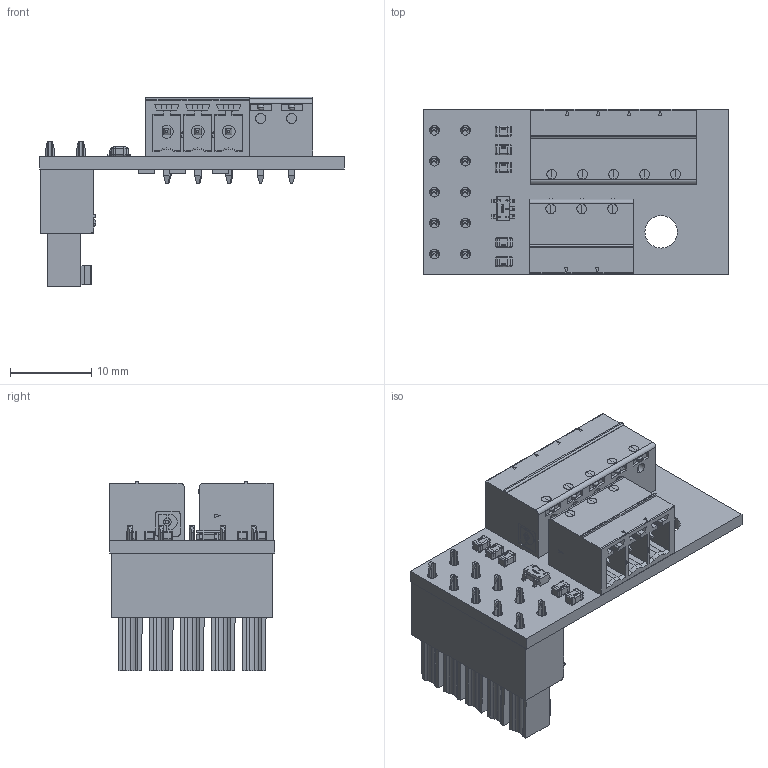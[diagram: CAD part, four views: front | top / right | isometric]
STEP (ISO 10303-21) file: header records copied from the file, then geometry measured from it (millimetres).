
FILE_DESCRIPTION(('Open CASCADE Model'),'2;1');
FILE_NAME('Open CASCADE Shape Model','2015-07-08T14:54:46',('Author'),( 'Open CASCADE'),'Open CASCADE STEP processor 6.2','Open CASCADE 6.2' ,'Unknown');
FILE_SCHEMA(('AUTOMOTIVE_DESIGN { 1 0 10303 214 1 1 1 1 }'));
Length unit declared in the file: millimetre
Products named in the file (24): PCB; Board; U1; SOT95P280X145-5N; SW3dPS-SOT23-5_SOT23-5_Connector; SW3dPS-SOT23-5_SOT23-5_Body; R5; Res-0805; R4; R3; R2; R1; J3; 1803280; J2; 1875454; J1; 1803303; C5; C0805-110; C4; C3; C2; C1
Assembly tree (35 placements, depth 4):
  PCB
    Board
    U1
      SOT95P280X145-5N
        SW3dPS-SOT23-5_SOT23-5_Connector  x5
        SW3dPS-SOT23-5_SOT23-5_Body
    R5
      Res-0805
    R4
      Res-0805
    R3
      Res-0805
    R2
      Res-0805
    R1
      Res-0805
    J3
      1803280
    J2
      1875454
    J1
      1803303
    C5
      C0805-110
    C4
      C0805-110
    C3
      C0805-110
    C2
      C0805-110
    C1
      C0805-110
Bounding box: 37.47 x 20.35 x 23.34 mm (x, y, z)
Volume: 2418.5 mm3; surface area: 6180.6 mm2
Topology: 9 solids, 1495 shells, 2513 faces, 9565 edges, 8572 vertices
Faces by surface type: plane 1338, bspline 934, cylinder 209, cone 16, sphere 16
Full cylindrical faces by diameter (mm): 1.2 x10, 1.6 x8, 4 x1
Entity records: 185819 total; most frequent: CARTESIAN_POINT 86755, DIRECTION 8966, ORIENTED_EDGE 8380, PCURVE 8380, DEFINITIONAL_REPRESENTATION 8380, B_SPLINE_CURVE_WITH_KNOTS 7026, EDGE_CURVE 5973, SURFACE_CURVE 5954
